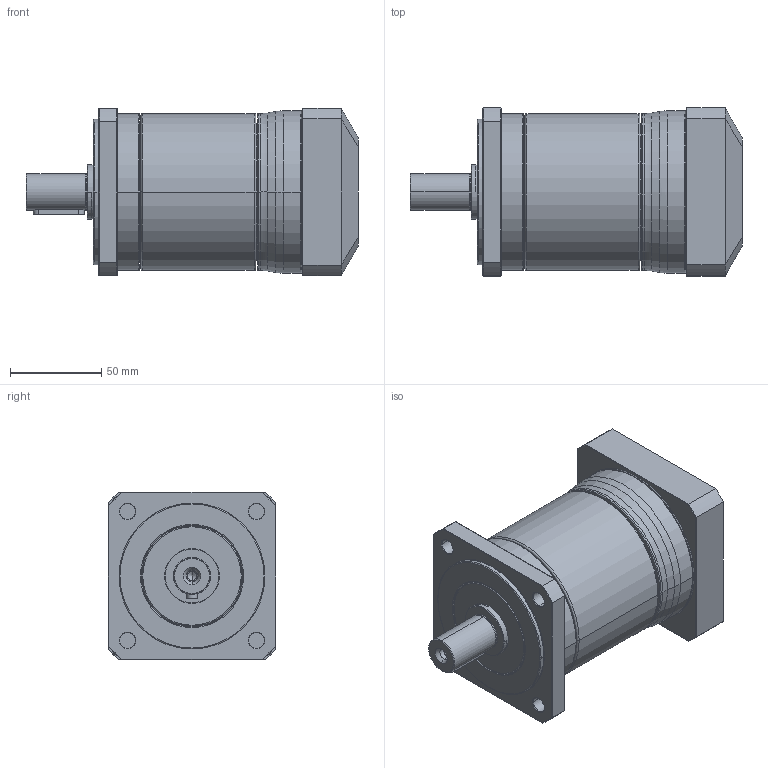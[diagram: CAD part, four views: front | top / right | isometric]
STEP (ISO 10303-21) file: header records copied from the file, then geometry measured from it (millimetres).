
FILE_DESCRIPTION((''),'2;1');
FILE_NAME('PG2-080A_2ST_19_P0411400101_ASM','2016-05-03T',('d01943'),(''),'PRO/ENGINEER BY PARAMETRIC TECHNOLOGY CORPORATION, 2008410','PRO/ENGINEER BY PARAMETRIC TECHNOLOGY CORPORATION, 2008410','');
FILE_SCHEMA(('CONFIG_CONTROL_DESIGN'));
Length unit declared in the file: millimetre
Products named in the file (9): P1326300001; P0251300001; P1324300101; P0350301103; P0941301001; P0503400008; P0411400101; P1702500001; PG2-080A_2ST_19_P0411400101_ASM
Assembly tree (8 placements, depth 2):
  PG2-080A_2ST_19_P0411400101_ASM
    P1326300001
    P0251300001
    P1324300101
    P0350301103
    P0941301001
    P0503400008
    P0411400101
    P1702500001
Bounding box: 182 x 92 x 92 mm (x, y, z)
Volume: 662316.8 mm3; surface area: 153867.6 mm2
Topology: 8 solids, 9 shells, 492 faces, 1084 edges, 626 vertices
Faces by surface type: cone 152, cylinder 141, plane 93, torus 92, bspline 14
Entity records: 18250 total; most frequent: CARTESIAN_POINT 7143, DIRECTION 2524, ORIENTED_EDGE 2112, AXIS2_PLACEMENT_3D 1078, EDGE_CURVE 1056, VERTEX_POINT 626, CIRCLE 583, EDGE_LOOP 562
